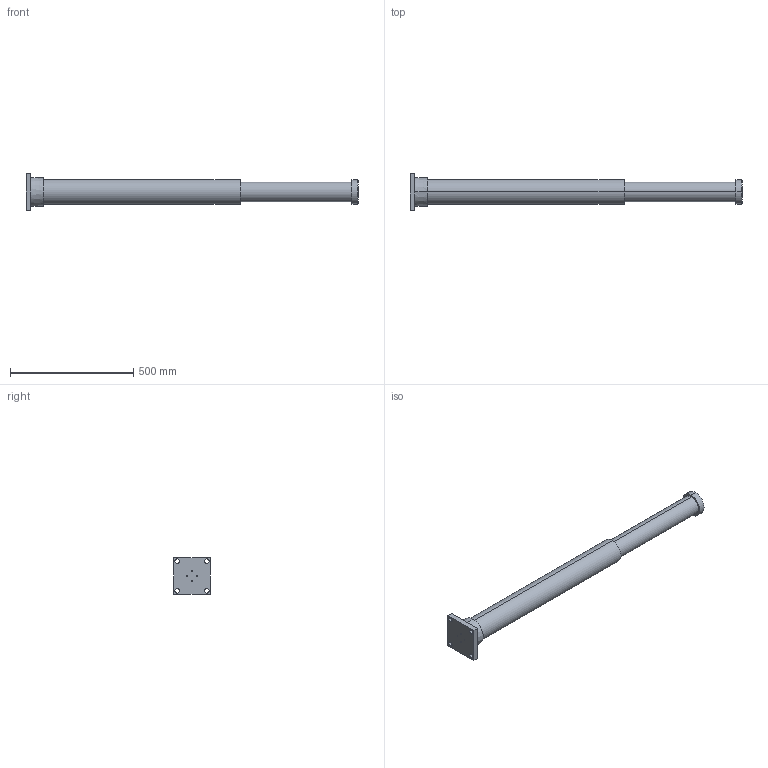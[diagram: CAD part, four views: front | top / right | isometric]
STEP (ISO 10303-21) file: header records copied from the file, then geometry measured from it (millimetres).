
FILE_DESCRIPTION (( 'STEP AP214' ), '1' );
FILE_NAME ('LDH100X400FR.STEP', '2019-01-21T04:58:03', ( 'user' ), ( 'Microsoft' ), 'SwSTEP 2.0', 'SolidWorks 2016', '' );
FILE_SCHEMA (( 'AUTOMOTIVE_DESIGN' ));
Length unit declared in the file: millimetre
Products named in the file (1): LDH100X400FR
Bounding box: 1349 x 150 x 150 mm (x, y, z)
Volume: 9722177.5 mm3; surface area: 456406.8 mm2
Topology: 1 solids, 1 shells, 40 faces, 88 edges, 58 vertices
Faces by surface type: cylinder 22, plane 14, cone 4
Entity records: 1176 total; most frequent: DIRECTION 220, CARTESIAN_POINT 187, ORIENTED_EDGE 176, AXIS2_PLACEMENT_3D 91, EDGE_CURVE 88, VERTEX_POINT 58, EDGE_LOOP 56, CIRCLE 50
